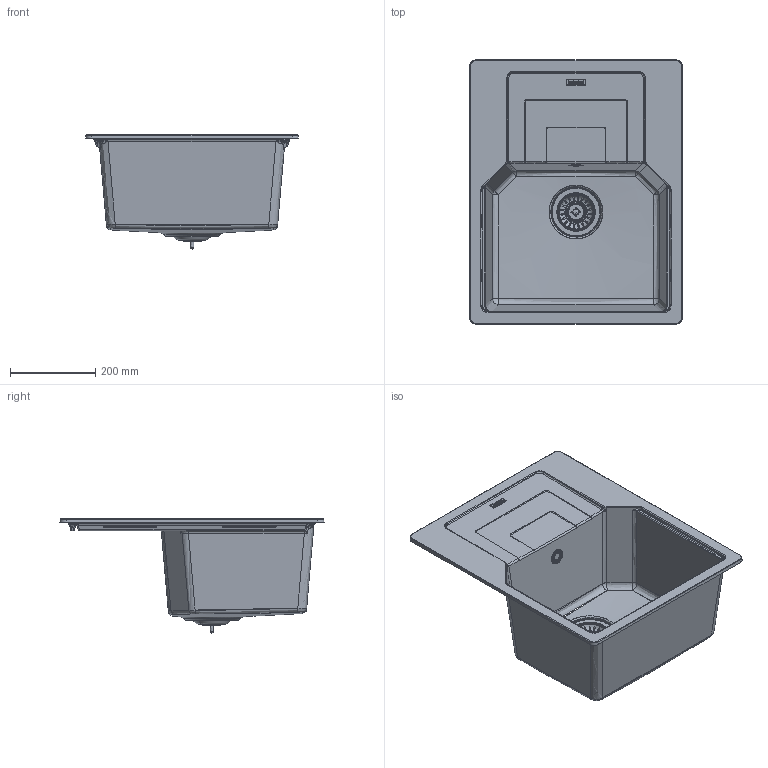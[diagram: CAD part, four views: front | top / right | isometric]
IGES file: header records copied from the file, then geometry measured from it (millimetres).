
Global section: file name: F:\_CONVERSIONE_CAD_2024_2025\_2024\03_3D kits new\Sinks\URBAN\114.0706.795 3D001_Sinks_Urban_UBG-611-62\3D001_Sinks_Urban_UBG-611-62.igs; native system: Rhinoceros ( Feb 13 2024 ); preprocessor: Trout Lake IGES 012 Feb 13 2024; date: 240327.101835; units: millimetre
Bounding box: 500 x 620 x 267.76 mm (x, y, z)
Surface area: 1246059.6 mm2 (no closed solid volume)
Topology: 0 solids, 0 shells, 1840 faces, 11423 edges, 11322 vertices
Faces by surface type: bspline 1840
